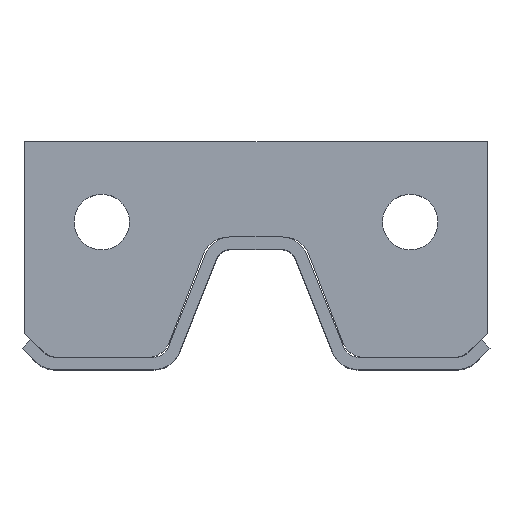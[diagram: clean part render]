
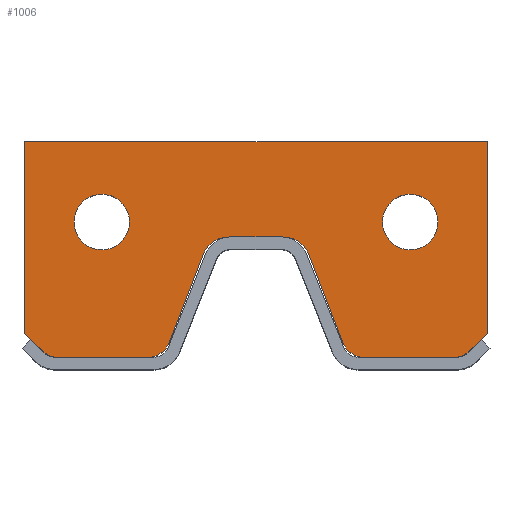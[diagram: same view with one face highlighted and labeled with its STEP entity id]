
A CAD part, top view. The second image highlights one B-rep face of the part: STEP entity #1006.
In plain terms, the highlighted planar face has unit normal (0, 0, 1).
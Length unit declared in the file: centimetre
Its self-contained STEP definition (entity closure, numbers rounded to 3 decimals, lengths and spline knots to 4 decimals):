
#42=FACE_BOUND('',#109,.T.);
#43=FACE_BOUND('',#110,.T.);
#54=FACE_OUTER_BOUND('',#108,.T.);
#108=EDGE_LOOP('',(#676,#677,#678,#679,#680,#681,#682,#683,#684,#685,#686,
#687,#688,#689,#690,#691));
#109=EDGE_LOOP('',(#692));
#110=EDGE_LOOP('',(#693));
#174=LINE('',#1479,#276);
#175=LINE('',#1483,#277);
#176=LINE('',#1487,#278);
#177=LINE('',#1491,#279);
#178=LINE('',#1495,#280);
#179=LINE('',#1499,#281);
#180=LINE('',#1501,#282);
#181=LINE('',#1503,#283);
#182=LINE('',#1505,#284);
#183=LINE('',#1506,#285);
#276=VECTOR('',#1171,0.1);
#277=VECTOR('',#1174,0.1);
#278=VECTOR('',#1177,0.1);
#279=VECTOR('',#1180,0.1);
#280=VECTOR('',#1183,0.1);
#281=VECTOR('',#1186,0.1);
#282=VECTOR('',#1187,0.1);
#283=VECTOR('',#1188,0.1);
#284=VECTOR('',#1189,0.1);
#285=VECTOR('',#1190,0.1);
#378=CIRCLE('',#1064,0.8);
#379=CIRCLE('',#1065,0.8);
#380=CIRCLE('',#1066,0.8);
#381=CIRCLE('',#1067,0.8);
#382=CIRCLE('',#1068,0.8);
#383=CIRCLE('',#1069,0.8);
#384=CIRCLE('',#1070,0.9);
#385=CIRCLE('',#1071,0.9);
#426=VERTEX_POINT('',#1475);
#427=VERTEX_POINT('',#1476);
#428=VERTEX_POINT('',#1478);
#429=VERTEX_POINT('',#1480);
#430=VERTEX_POINT('',#1482);
#431=VERTEX_POINT('',#1484);
#432=VERTEX_POINT('',#1486);
#433=VERTEX_POINT('',#1488);
#434=VERTEX_POINT('',#1490);
#435=VERTEX_POINT('',#1492);
#436=VERTEX_POINT('',#1494);
#437=VERTEX_POINT('',#1496);
#438=VERTEX_POINT('',#1498);
#439=VERTEX_POINT('',#1500);
#440=VERTEX_POINT('',#1502);
#441=VERTEX_POINT('',#1504);
#442=VERTEX_POINT('',#1507);
#443=VERTEX_POINT('',#1509);
#526=EDGE_CURVE('',#426,#427,#378,.T.);
#527=EDGE_CURVE('',#427,#428,#174,.T.);
#528=EDGE_CURVE('',#428,#429,#379,.T.);
#529=EDGE_CURVE('',#429,#430,#175,.T.);
#530=EDGE_CURVE('',#430,#431,#380,.T.);
#531=EDGE_CURVE('',#431,#432,#176,.T.);
#532=EDGE_CURVE('',#432,#433,#381,.T.);
#533=EDGE_CURVE('',#433,#434,#177,.T.);
#534=EDGE_CURVE('',#434,#435,#382,.T.);
#535=EDGE_CURVE('',#435,#436,#178,.T.);
#536=EDGE_CURVE('',#436,#437,#383,.T.);
#537=EDGE_CURVE('',#437,#438,#179,.T.);
#538=EDGE_CURVE('',#438,#439,#180,.T.);
#539=EDGE_CURVE('',#439,#440,#181,.T.);
#540=EDGE_CURVE('',#440,#441,#182,.T.);
#541=EDGE_CURVE('',#441,#426,#183,.T.);
#542=EDGE_CURVE('',#442,#442,#384,.T.);
#543=EDGE_CURVE('',#443,#443,#385,.T.);
#676=ORIENTED_EDGE('',*,*,#526,.T.);
#677=ORIENTED_EDGE('',*,*,#527,.T.);
#678=ORIENTED_EDGE('',*,*,#528,.T.);
#679=ORIENTED_EDGE('',*,*,#529,.T.);
#680=ORIENTED_EDGE('',*,*,#530,.T.);
#681=ORIENTED_EDGE('',*,*,#531,.T.);
#682=ORIENTED_EDGE('',*,*,#532,.T.);
#683=ORIENTED_EDGE('',*,*,#533,.T.);
#684=ORIENTED_EDGE('',*,*,#534,.T.);
#685=ORIENTED_EDGE('',*,*,#535,.T.);
#686=ORIENTED_EDGE('',*,*,#536,.T.);
#687=ORIENTED_EDGE('',*,*,#537,.T.);
#688=ORIENTED_EDGE('',*,*,#538,.T.);
#689=ORIENTED_EDGE('',*,*,#539,.T.);
#690=ORIENTED_EDGE('',*,*,#540,.T.);
#691=ORIENTED_EDGE('',*,*,#541,.T.);
#692=ORIENTED_EDGE('',*,*,#542,.T.);
#693=ORIENTED_EDGE('',*,*,#543,.T.);
#976=PLANE('',#1063);
#1006=ADVANCED_FACE('',(#54,#42,#43),#976,.T.);
#1063=AXIS2_PLACEMENT_3D('',#1474,#1167,#1168);
#1064=AXIS2_PLACEMENT_3D('',#1477,#1169,#1170);
#1065=AXIS2_PLACEMENT_3D('',#1481,#1172,#1173);
#1066=AXIS2_PLACEMENT_3D('',#1485,#1175,#1176);
#1067=AXIS2_PLACEMENT_3D('',#1489,#1178,#1179);
#1068=AXIS2_PLACEMENT_3D('',#1493,#1181,#1182);
#1069=AXIS2_PLACEMENT_3D('',#1497,#1184,#1185);
#1070=AXIS2_PLACEMENT_3D('',#1508,#1191,#1192);
#1071=AXIS2_PLACEMENT_3D('',#1510,#1193,#1194);
#1167=DIRECTION('center_axis',(0.,0.,1.));
#1168=DIRECTION('ref_axis',(1.,0.,0.));
#1169=DIRECTION('center_axis',(0.,0.,1.));
#1170=DIRECTION('ref_axis',(-0.707,-0.707,0.));
#1171=DIRECTION('',(1.,0.,0.));
#1172=DIRECTION('center_axis',(0.,0.,1.));
#1173=DIRECTION('ref_axis',(0.,-1.,0.));
#1174=DIRECTION('',(0.359,0.933,0.));
#1175=DIRECTION('center_axis',(0.,0.,-1.));
#1176=DIRECTION('ref_axis',(-0.933,0.359,0.));
#1177=DIRECTION('',(1.,0.,0.));
#1178=DIRECTION('center_axis',(0.,0.,-1.));
#1179=DIRECTION('ref_axis',(0.,1.,0.));
#1180=DIRECTION('',(0.359,-0.933,0.));
#1181=DIRECTION('center_axis',(0.,0.,1.));
#1182=DIRECTION('ref_axis',(-0.933,-0.359,0.));
#1183=DIRECTION('',(1.,0.,0.));
#1184=DIRECTION('center_axis',(0.,0.,1.));
#1185=DIRECTION('ref_axis',(0.,-1.,0.));
#1186=DIRECTION('',(0.707,0.707,0.));
#1187=DIRECTION('',(0.,1.,0.));
#1188=DIRECTION('',(-1.,0.,0.));
#1189=DIRECTION('',(0.,-1.,0.));
#1190=DIRECTION('',(0.707,-0.707,0.));
#1191=DIRECTION('center_axis',(0.,0.,-1.));
#1192=DIRECTION('ref_axis',(0.,1.,0.));
#1193=DIRECTION('center_axis',(0.,0.,-1.));
#1194=DIRECTION('ref_axis',(0.,1.,0.));
#1474=CARTESIAN_POINT('Origin',(64.0042,159.8304,0.2));
#1475=CARTESIAN_POINT('',(57.0699,156.2739,0.2));
#1476=CARTESIAN_POINT('',(57.6356,156.0396,0.2));
#1477=CARTESIAN_POINT('Origin',(57.6356,156.8396,0.2));
#1478=CARTESIAN_POINT('',(60.4548,156.0396,0.2));
#1479=CARTESIAN_POINT('',(57.6356,156.0396,0.2));
#1480=CARTESIAN_POINT('',(61.2015,156.5524,0.2));
#1481=CARTESIAN_POINT('Origin',(60.4548,156.8396,0.2));
#1482=CARTESIAN_POINT('',(62.307,159.4268,0.2));
#1483=CARTESIAN_POINT('',(61.2015,156.5524,0.2));
#1484=CARTESIAN_POINT('',(63.0537,159.9396,0.2));
#1485=CARTESIAN_POINT('Origin',(63.0537,159.1396,0.2));
#1486=CARTESIAN_POINT('',(64.9548,159.9396,0.2));
#1487=CARTESIAN_POINT('',(63.0537,159.9396,0.2));
#1488=CARTESIAN_POINT('',(65.7015,159.4268,0.2));
#1489=CARTESIAN_POINT('Origin',(64.9548,159.1396,0.2));
#1490=CARTESIAN_POINT('',(66.807,156.5524,0.2));
#1491=CARTESIAN_POINT('',(65.7015,159.4268,0.2));
#1492=CARTESIAN_POINT('',(67.5537,156.0396,0.2));
#1493=CARTESIAN_POINT('Origin',(67.5537,156.8396,0.2));
#1494=CARTESIAN_POINT('',(70.3729,156.0396,0.2));
#1495=CARTESIAN_POINT('',(67.5537,156.0396,0.2));
#1496=CARTESIAN_POINT('',(70.9386,156.2739,0.2));
#1497=CARTESIAN_POINT('Origin',(70.3729,156.8396,0.2));
#1498=CARTESIAN_POINT('',(71.5042,156.8396,0.2));
#1499=CARTESIAN_POINT('',(70.9386,156.2739,0.2));
#1500=CARTESIAN_POINT('',(71.5042,163.0396,0.2));
#1501=CARTESIAN_POINT('',(71.5042,156.8396,0.2));
#1502=CARTESIAN_POINT('',(56.5042,163.0396,0.2));
#1503=CARTESIAN_POINT('',(71.5042,163.0396,0.2));
#1504=CARTESIAN_POINT('',(56.5042,156.8396,0.2));
#1505=CARTESIAN_POINT('',(56.5042,163.0396,0.2));
#1506=CARTESIAN_POINT('',(56.5042,156.8396,0.2));
#1507=CARTESIAN_POINT('',(58.1042,160.4396,0.2));
#1508=CARTESIAN_POINT('Origin',(59.0042,160.4396,0.2));
#1509=CARTESIAN_POINT('',(68.1042,160.4396,0.2));
#1510=CARTESIAN_POINT('Origin',(69.0042,160.4396,0.2));
